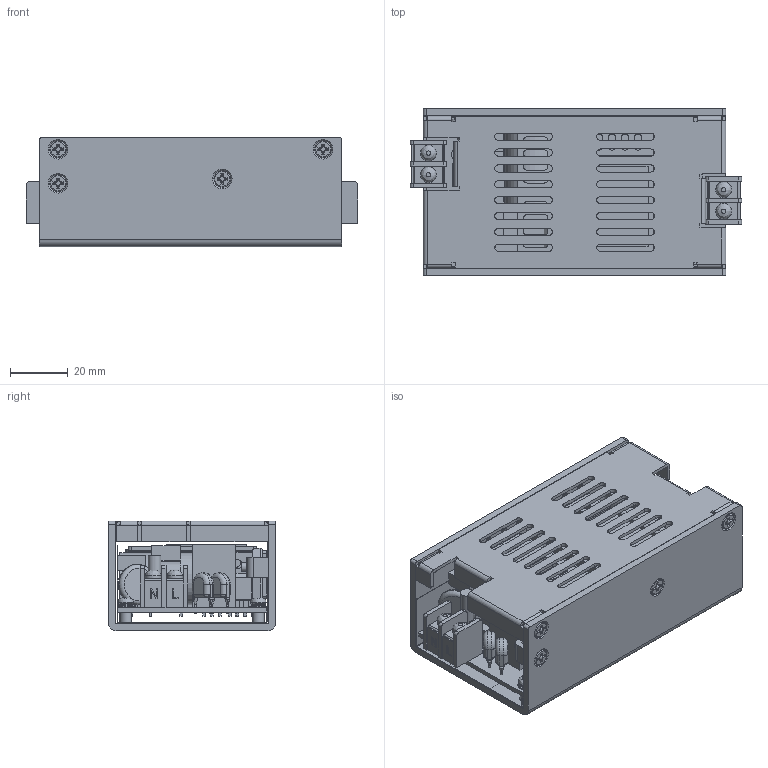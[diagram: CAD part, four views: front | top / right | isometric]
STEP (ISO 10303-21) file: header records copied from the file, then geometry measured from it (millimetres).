
FILE_DESCRIPTION((''),'2;1');
FILE_NAME('C:\Documents and Settings\peter\My Documents\Inventor\AES60\ASSEMBLY.stp','2015-02-10T15:41:03',('peter'),(''),'Autodesk Inventor 2008','Autodesk Inventor 2008','');
FILE_SCHEMA(('AUTOMOTIVE_DESIGN { 1 0 10303 214 1 1 1 1 }'));
Length unit declared in the file: millimetre
Products named in the file (32): ASSEMBLY; BOT CASE; M3 - 6.5 mm; M3 - 2r5 mm; PCB; X1 HEATSINK; X2 HEATSINK; IN INLET; INLET 9 mm_5; INLET 9 mm_6; OUT INLET; INLET 9 mm_7; INLET 9 mm_8; MYLAR - T1; TO-220FP_4; TO-220FP_5; TO-220FP_6; BD1_2; VR; LED - 3mm; Y -- C; RV1_2; MYLAR - CASE; SILICON - CASE; L形固定片 ( 小 ); SCREW PH M3 x 6 mm; L形固定片 ( 大 ); SCREW PH M3_10 mm; TOP CASE; SCREW CH_W  M3_6mm
Assembly tree (45 placements, depth 4):
  ASSEMBLY
    BOT CASE
      BOT CASE
      M3 - 6.5 mm  x4
      M3 - 2r5 mm  x4
    PCB
      PCB
      X1 HEATSINK
      X2 HEATSINK
      IN INLET
        INLET 9 mm_5
        INLET 9 mm_6
      OUT INLET
        INLET 9 mm_7
        INLET 9 mm_8
      MYLAR - T1
      TO-220FP_4
      TO-220FP_5
      TO-220FP_6
      BD1_2
      VR
      LED - 3mm
      Y -- C  x2
      RV1_2
    MYLAR - CASE
    SILICON - CASE
    L形固定片 ( 小 )
    SCREW PH M3 x 6 mm  x5
    L形固定片 ( 大 )
    SCREW PH M3_10 mm
    TOP CASE
    SCREW CH_W  M3_6mm  x4
Bounding box: 115 x 58 x 38.1 mm (x, y, z)
Volume: 105006.1 mm3; surface area: 105493.9 mm2
Topology: 55 solids, 55 shells, 1949 faces, 4986 edges, 3235 vertices
Faces by surface type: plane 1123, cylinder 403, bspline 263, cone 87, torus 72, sphere 1
Full cylindrical faces by diameter (mm): 0.45 x3, 0.6 x6, 0.8 x2, 1.85 x2, 3 x11, 3.1 x4, 3.2 x3, 3.5 x4, 4.1 x8, 4.472 x1, 5 x1, 5.5 x4, 5.8 x10, 6 x1, 8 x4, 18 x1
Entity records: 52282 total; most frequent: CARTESIAN_POINT 13529, ORIENTED_EDGE 7786, DIRECTION 7008, EDGE_CURVE 3893, VECTOR 2676, LINE 2676, VERTEX_POINT 2620, AXIS2_PLACEMENT_3D 2166
